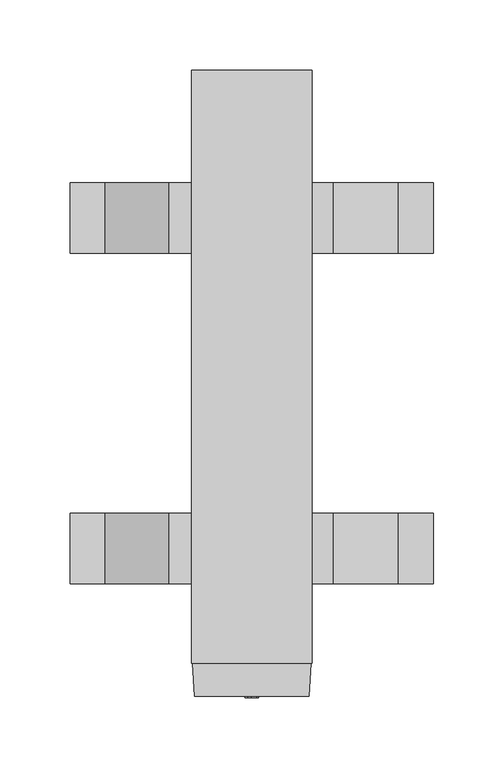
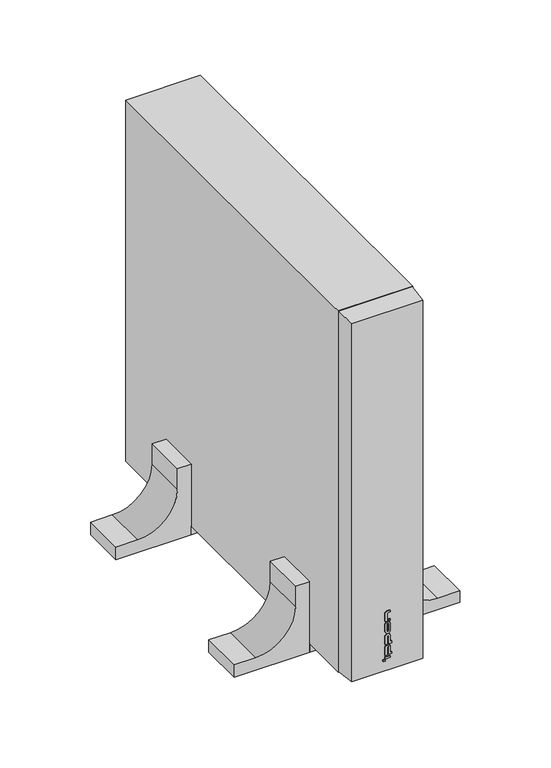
"""IFC4 building model written with IfcOpenShell, lengths in millimetres: proxy geometry, IPPON_ИБП_Innova RT II_1000_1500_2000_3000ВА : INNOVA RT II 1000 ВА."""

from ifc_helpers import new_model, si_unit, point, frame, frame_2d, origin, origin_with_axes, place, context, project, spatial, polyline, circle_curve, trimmed, segment, composite_curve, outline, extrude, faceted_brep, source, transform, mapped, element, save


def electrical_equipment_f061e295(model_context):
    return source(origin(), model_context, "Body", "SolidModel", [
        extrude(outline(polyline([(-2.7362511, -1.0), (-5.0362511, -1.0), (-5.0362511, 0.0), (-2.7362511, 0.0), (-2.7362511, -1.0)])), frame((0.0, 0.0, 24.0), z_axis=(0.0, 0.0, 1.0), x_axis=(1.0, 0.0, 0.0)), (0.0, 0.0, 1.0), 2.0),
        extrude(outline(polyline([(3.2637489, -1.0), (1.0369258, -1.0), (1.0369258, 0.0), (3.2637489, 0.0), (3.2637489, -1.0)])), frame((0.0, 0.0, 71.7753606), z_axis=(0.0, 0.0, 1.0), x_axis=(1.0, 0.0, 0.0)), (0.0, 0.0, 1.0), 2.0),
        extrude(outline(polyline([(3.2637489, -1.0), (-2.7362511, -1.0), (-2.7362511, 0.0), (3.2637489, 0.0), (3.2637489, -1.0)])), frame((0.0, 0.0, 26.6884808), z_axis=(0.0, 0.0, 1.0), x_axis=(1.0, 0.0, 0.0)), (0.0, 0.0, 1.0), 2.0447674),
        extrude(outline(composite_curve([segment(polyline([(30.9477024, -0.4738111), (40.1794597, -0.4738111)]), True, "CONTINUOUS"), segment(trimmed(circle_curve(frame_2d((40.1794597, 0.3826682)), 0.8564793), [point((40.1794597, -0.4738111))], [point((40.1794597, 1.2391475))], True, "CARTESIAN"), True, "CONTINUOUS"), segment(polyline([(40.1794597, 1.2391475), (30.9477024, 1.2391475), (30.9477024, 4.7296521), (32.9477024, 4.7296521), (32.9477024, 3.2637489), (40.0232097, 3.2637489)]), True, "CONTINUOUS"), segment(trimmed(circle_curve(frame_2d((40.0232097, 0.2637489)), 3.0), [point((40.0232097, 3.2637489))], [point((40.0232097, -2.7362511))], False, "CARTESIAN"), True, "CONTINUOUS"), segment(polyline([(40.0232097, -2.7362511), (30.9477024, -2.7362511), (30.9477024, -0.4738111)]), True, "CONTINUOUS")], self_intersect=False)), frame((0.0, -1.0, 0.0), z_axis=(0.0, 1.0, 0.0), x_axis=(0.0, 0.0, 1.0)), (0.0, 0.0, 1.0), 1.0),
        extrude(outline(composite_curve([segment(polyline([(44.1547042, -0.4738111), (53.3864614, -0.4738111)]), True, "CONTINUOUS"), segment(trimmed(circle_curve(frame_2d((53.3864614, 0.3826682)), 0.8564793), [point((53.3864614, -0.4738111))], [point((53.3864614, 1.2391475))], True, "CARTESIAN"), True, "CONTINUOUS"), segment(polyline([(53.3864614, 1.2391475), (44.1547042, 1.2391475), (44.1547042, 4.7296521), (46.1547042, 4.7296521), (46.1547042, 3.2637489), (53.2302114, 3.2637489)]), True, "CONTINUOUS"), segment(trimmed(circle_curve(frame_2d((53.2302114, 0.2637489)), 3.0), [point((53.2302114, 3.2637489))], [point((53.2302114, -2.7362511))], False, "CARTESIAN"), True, "CONTINUOUS"), segment(polyline([(53.2302114, -2.7362511), (44.1547042, -2.7362511), (44.1547042, -0.4738111)]), True, "CONTINUOUS")], self_intersect=False)), frame((0.0, -1.0, 0.0), z_axis=(0.0, 1.0, 0.0), x_axis=(0.0, 0.0, 1.0)), (0.0, 0.0, 1.0), 1.0),
        extrude(outline(composite_curve([segment(trimmed(circle_curve(frame_2d((67.7304703, 0.2637489)), 3.0), [point((67.7304703, 3.2637489))], [point((67.7304703, -2.7362511))], False, "CARTESIAN"), True, "CONTINUOUS"), segment(polyline([(67.7304703, -2.7362511), (60.1304703, -2.7362511)]), True, "CONTINUOUS"), segment(trimmed(circle_curve(frame_2d((60.1304703, 0.2637489)), 3.0), [point((60.1304703, -2.7362511))], [point((60.1304703, 3.2637489))], False, "CARTESIAN"), True, "CONTINUOUS"), segment(polyline([(60.1304703, 3.2637489), (67.7304703, 3.2637489)]), True, "CONTINUOUS")], self_intersect=False), holes=[composite_curve([segment(polyline([(67.8867203, 1.2391475), (59.9742203, 1.2391475)]), True, "CONTINUOUS"), segment(trimmed(circle_curve(frame_2d((59.9742203, 0.3826682)), 0.8564793), [point((59.9742203, 1.2391475))], [point((59.9742203, -0.4738111))], True, "CARTESIAN"), True, "CONTINUOUS"), segment(polyline([(59.9742203, -0.4738111), (67.8867203, -0.4738111)]), True, "CONTINUOUS"), segment(trimmed(circle_curve(frame_2d((67.8867203, 0.3826682)), 0.8564793), [point((67.8867203, -0.4738111))], [point((67.8867203, 1.2391475))], True, "CARTESIAN"), True, "CONTINUOUS")], self_intersect=False)]), frame((0.0, -1.0, 0.0), z_axis=(0.0, 1.0, 0.0), x_axis=(0.0, 0.0, 1.0)), (0.0, 0.0, 1.0), 1.0),
        extrude(outline(composite_curve([segment(polyline([(71.7753606, -0.4738111), (81.0071179, -0.4738111)]), True, "CONTINUOUS"), segment(trimmed(circle_curve(frame_2d((81.0071179, 0.3826682)), 0.8564793), [point((81.0071179, -0.4738111))], [point((81.8635972, 0.3826682))], True, "CARTESIAN"), True, "CONTINUOUS"), segment(polyline([(81.8635972, 0.3826682), (81.8635972, 3.2637489), (83.8036054, 3.2637489), (83.8036054, -0.2666676)]), True, "CONTINUOUS"), segment(trimmed(circle_curve(frame_2d((80.8508679, 0.2637489)), 3.0), [point((83.8036054, -0.2666676))], [point((80.8508679, -2.7362511))], False, "CARTESIAN"), True, "CONTINUOUS"), segment(polyline([(80.8508679, -2.7362511), (71.7753606, -2.7362511), (71.7753606, -0.4738111)]), True, "CONTINUOUS")], self_intersect=False)), frame((0.0, -1.0, 0.0), z_axis=(0.0, 1.0, 0.0), x_axis=(0.0, 0.0, 1.0)), (0.0, 0.0, 1.0), 1.0),
        extrude(outline(polyline([(-42.75, 365.0), (42.75, 365.0), (42.75, 315.0), (-42.75, 315.0), (-42.75, 365.0)])), origin_with_axes(), (0.0, 0.0, 1.0), 10.0),
        extrude(outline(polyline([(42.75, 80.0), (-42.75, 80.0), (-42.75, 130.0), (42.75, 130.0), (42.75, 80.0)])), origin_with_axes(), (0.0, 0.0, 1.0), 10.0),
        extrude(outline(composite_curve([segment(polyline([(0.0, -42.75), (85.5, -42.75), (85.5, -58.75), (60.5, -58.75)]), True, "CONTINUOUS"), segment(trimmed(circle_curve(frame_2d((60.5, -104.25)), 45.5), [point((60.5, -58.75))], [point((15.0, -104.25))], True, "CARTESIAN"), True, "CONTINUOUS"), segment(polyline([(15.0, -104.25), (15.0, -129.25), (0.0, -129.25), (0.0, -42.75)]), True, "CONTINUOUS")], self_intersect=False)), frame((0.0, 315.0, 0.0), z_axis=(0.0, 1.0, 0.0), x_axis=(0.0, 0.0, 1.0)), (0.0, 0.0, 1.0), 50.0),
        extrude(outline(composite_curve([segment(polyline([(0.0, -42.75), (85.5, -42.75), (85.5, -58.75), (60.5, -58.75)]), True, "CONTINUOUS"), segment(trimmed(circle_curve(frame_2d((60.5, -104.25)), 45.5), [point((60.5, -58.75))], [point((15.0, -104.25))], True, "CARTESIAN"), True, "CONTINUOUS"), segment(polyline([(15.0, -104.25), (15.0, -129.25), (0.0, -129.25), (0.0, -42.75)]), True, "CONTINUOUS")], self_intersect=False)), frame((0.0, 80.0, 0.0), z_axis=(0.0, 1.0, 0.0), x_axis=(0.0, 0.0, 1.0)), (0.0, 0.0, 1.0), 50.0),
        extrude(outline(composite_curve([segment(polyline([(0.0, 129.25), (14.0, 129.25), (14.0, 104.25)]), True, "CONTINUOUS"), segment(trimmed(circle_curve(frame_2d((60.5, 104.25)), 46.5), [point((14.0, 104.25))], [point((60.5, 57.75))], True, "CARTESIAN"), True, "CONTINUOUS"), segment(polyline([(60.5, 57.75), (85.5, 57.75), (85.5, 42.75), (0.0, 42.75), (0.0, 129.25)]), True, "CONTINUOUS")], self_intersect=False)), frame((0.0, 315.0, 0.0), z_axis=(0.0, 1.0, 0.0), x_axis=(0.0, 0.0, 1.0)), (0.0, 0.0, 1.0), 50.0),
        extrude(outline(composite_curve([segment(polyline([(0.0, 42.75), (0.0, 129.25), (14.0, 129.25), (14.0, 104.25)]), True, "CONTINUOUS"), segment(trimmed(circle_curve(frame_2d((60.5, 104.25)), 46.5), [point((14.0, 104.25))], [point((60.5, 57.75))], True, "CARTESIAN"), True, "CONTINUOUS"), segment(polyline([(60.5, 57.75), (85.5, 57.75), (85.5, 42.75), (0.0, 42.75)]), True, "CONTINUOUS")], self_intersect=False)), frame((0.0, 80.0, 0.0), z_axis=(0.0, 1.0, 0.0), x_axis=(0.0, 0.0, 1.0)), (0.0, 0.0, 1.0), 50.0),
        faceted_brep([(40.75, 0.0, 12.0), (40.75, 0.0, 446.0), (-40.75, 0.0, 446.0), (-40.75, 0.0, 12.0), (42.1748599, 23.5101876, 10.5751401), (42.1748599, 23.5101876, 447.4248599), (-42.1748599, 23.5101876, 447.4248599), (-42.1748599, 23.5101876, 10.5751401), (42.75, 445.0, 448.0), (42.75, 445.0, 10.0), (-42.75, 445.0, 10.0), (-42.75, 445.0, 448.0), (42.75, 23.5101876, 448.0), (-42.75, 23.5101876, 448.0), (-42.75, 23.5101876, 10.0), (42.75, 23.5101876, 10.0), (-42.75, 33.0, 448.0), (42.75, 33.0, 448.0), (-42.75, 33.0, 10.0), (42.75, 33.0, 10.0)], [[[0, 1, 2, 3]], [[1, 0, 4, 5]], [[2, 1, 5, 6]], [[3, 2, 6, 7]], [[0, 3, 7, 4]], [[8, 9, 10, 11]], [[12, 13, 14, 15], [5, 4, 7, 6]], [[8, 11, 16, 13, 12, 17]], [[11, 10, 18, 14, 13, 16]], [[10, 9, 19, 15, 14, 18]], [[9, 8, 17, 12, 15, 19]]]),
    ])


if __name__ == "__main__":
    model = new_model("IFC4")
    model_context = context("Model", 3, world=origin())
    ifc_project = project(units=[si_unit("LENGTHUNIT", "METRE", prefix="MILLI")], contexts=[model_context])
    site = spatial("IfcSite", under=ifc_project)
    building = spatial("IfcBuilding", under=site)
    placement = place(None, origin())
    electrical_equipment_shape = electrical_equipment_f061e295(model_context)
    element("IfcBuildingElementProxy", 1, Name="IPPON_ИБП_Innova RT II_1000_1500_2000_3000ВА : INNOVA RT II 1000 ВА", ObjectType="IPPON_ИБП_Innova RT II_1000_1500_2000_3000ВА : INNOVA RT II 1000 ВА", at=placement, inside=building, context=model_context, shape_type="MappedRepresentation", body=[
        mapped(electrical_equipment_shape, transform((0.0, 0.0, 0.0), x_axis=(1.0, 0.0, 0.0), y_axis=(0.0, 1.0, 0.0), z_axis=(0.0, 0.0, 1.0))),
    ])
    save(model, "model.ifc")
